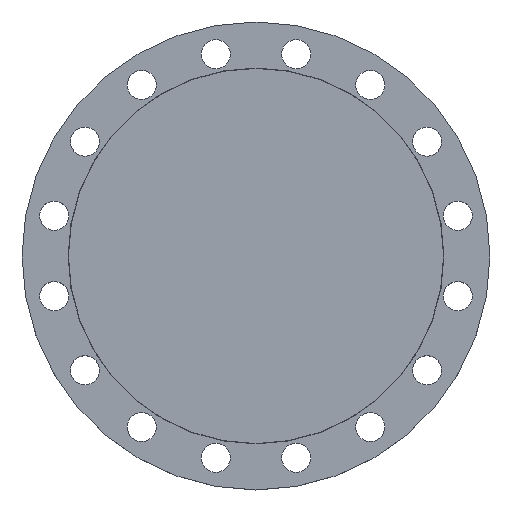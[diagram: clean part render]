
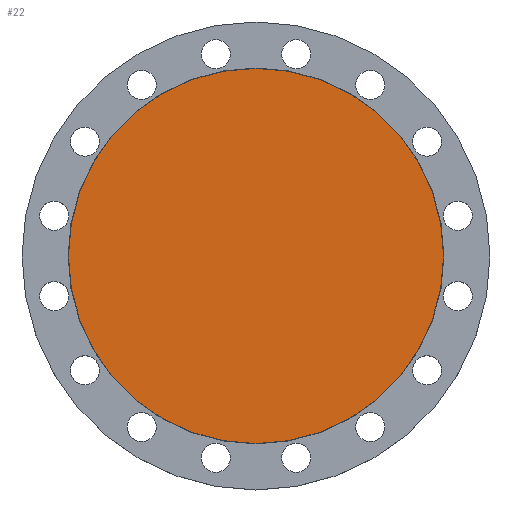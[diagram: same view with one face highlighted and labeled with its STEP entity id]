
A CAD part, top view. The second image highlights one B-rep face of the part: STEP entity #22.
In plain terms, the highlighted planar face has unit normal (0, 0, 1).
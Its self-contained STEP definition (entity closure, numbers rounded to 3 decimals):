
#22 = ADVANCED_FACE ( 'NONE', ( #861 ), #859, .T. ) ;
#24 = AXIS2_PLACEMENT_3D ( 'NONE', #858, #857, #856 ) ;
#99 = CARTESIAN_POINT ( 'NONE',  ( 232.5, 0., 0. ) ) ;
#131 = CARTESIAN_POINT ( 'NONE',  ( -232.5, 0., 0. ) ) ;
#148 = AXIS2_PLACEMENT_3D ( 'NONE', #647, #646, #645 ) ;
#365 = DIRECTION ( 'NONE',  ( -1., 0., 0. ) ) ;
#366 = DIRECTION ( 'NONE',  ( 0., 0., -1. ) ) ;
#367 = CARTESIAN_POINT ( 'NONE',  ( 0., 0., 0. ) ) ;
#415 = EDGE_CURVE ( 'NONE', #1350, #1297, #1282, .T. ) ;
#565 = CIRCLE ( 'NONE', #979, 232.5 ) ;
#645 = DIRECTION ( 'NONE',  ( -1., 0., 0. ) ) ;
#646 = DIRECTION ( 'NONE',  ( 0., 0., -1. ) ) ;
#647 = CARTESIAN_POINT ( 'NONE',  ( 0., 0., 0. ) ) ;
#856 = DIRECTION ( 'NONE',  ( 1., 0., 0. ) ) ;
#857 = DIRECTION ( 'NONE',  ( 0., 0., 1. ) ) ;
#858 = CARTESIAN_POINT ( 'NONE',  ( 0., 0., 0. ) ) ;
#859 = PLANE ( 'NONE',  #24 ) ;
#861 = FACE_OUTER_BOUND ( 'NONE', #1353, .T. ) ;
#979 = AXIS2_PLACEMENT_3D ( 'NONE', #367, #366, #365 ) ;
#987 = EDGE_CURVE ( 'NONE', #1297, #1350, #565, .T. ) ;
#1178 = ORIENTED_EDGE ( 'NONE', *, *, #987, .F. ) ;
#1180 = ORIENTED_EDGE ( 'NONE', *, *, #415, .F. ) ;
#1282 = CIRCLE ( 'NONE', #148, 232.5 ) ;
#1297 = VERTEX_POINT ( 'NONE', #131 ) ;
#1350 = VERTEX_POINT ( 'NONE', #99 ) ;
#1353 = EDGE_LOOP ( 'NONE', ( #1178, #1180 ) ) ;
